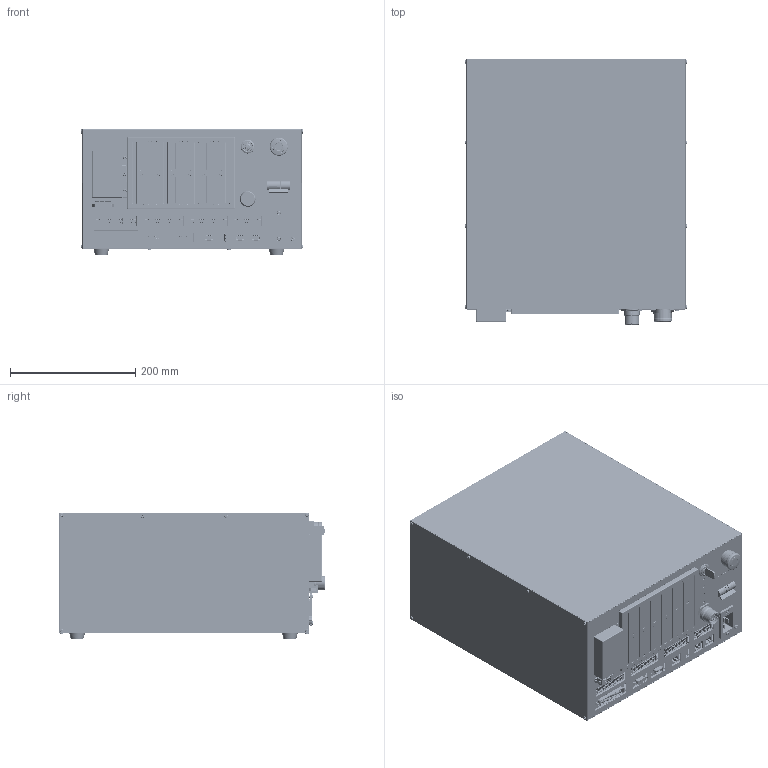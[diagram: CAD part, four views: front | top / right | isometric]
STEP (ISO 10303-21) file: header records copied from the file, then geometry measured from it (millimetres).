
FILE_DESCRIPTION (( 'STEP AP214' ), '1' );
FILE_NAME ('E系列控制柜3D（负载小于12kg）.STEP', '2020-12-07T02:32:42', ( '' ), ( '' ), 'SwSTEP 2.0', 'SolidWorks 2016', '' );
FILE_SCHEMA (( 'AUTOMOTIVE_DESIGN' ));
Length unit declared in the file: millimetre
Products named in the file (107): ABB_USR22_ASM102; C-0178803-08-E-3D61; 4040200003_ASM107; 15EDGRHCM-THR-3_5-28P-13-00A_H_77; 4040200002; _ABB_2TLA010070R0000_3_643; OUTSIDE-XA-LOCK-NUT_STEP_ASM105; RJ45_90855050013000193; E系列控制柜3D（负载小于12kg）; MC__BREAK_22_PIN_ASM108; _D0001_ASM115; _1000138; _4_1_000156; __D000294; _1_2_000248; _3000168; _1_3_000247; XA1E-BV3U02R_ASM116; LB6K-ST_STEP_ASM106; 20017; 0005_ASM; __1000153; LM150-10B_0001_ASM111; PS20S71F6_ASM109; Z-SHAPE23; 2912_PACK-KXA4-6; _3000269; 0006_ASM; _THUNDER__G100051; XA1E-BV3U02R_STEP_ASM113; 30030; OUTSIDE-LB-FL-NUT-SET________ST80; 00121; LB6K-ST_ASM114; OUTSIDE-LB-FL-S_K-BODY-M_______79; _X2_56FE5757_X0_ 21; __3_2_000132; DB9_BODY97; FN9222-20-06_ASM98; _ABB_2TLA010070R0000_5_1383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
Assembly tree (141 placements, depth 5):
  E系列控制柜3D（负载小于12kg）
    20017
    USBA12
    0045
    0012
    00121
    001819
    20013
    30030
    20045
    30026
    2912_PACK-KXA3-620  x21
    2912_PACK-KXA4-6
    00_ASM110
      C-178289-8-P-3D__000160
      C-0178803-08-E-3D61
    ABB_USR22_ASM102
      _ABB_2TLA010070R0000_2_470
      _ABB_2TLA010070R0000_4_83637  x4
      _ABB_2TLA010070R0000_1_240
      _ABB_2TLA010070R0000_5_1383
      _ABB_2TLA010070R0000_3_643
    _THUNDER__G1000425  x4
    _THUNDER__G100051
    0003_ASM
      TSB-500027
      12_000128
      _000129
    _D0001_ASM115  x3
      PCB__D000162
      PS20S71F6_ASM109
        __3_2_000132
        _7-495525000165
        __2000016667
      4040200001_ASM
        4040200002
        4040200003_ASM107
          _2000174
          _1000138
      TO-3PF_IGBT__ASM104
        _1_3_000141
        _7-479487000184
        _1_2_000186
        _1_1_000144
      17__D0001_ASM101
        _1_4_000192
        _1_3_000247
        _1_2_000248
        _1_1_000249
      TSB-500027
      __D00017
    LM150-10B_0001_ASM111
      __1000153
      10054
      M3_1_1_00055
      FN9222-20-06_ASM98
        _4_1_000156
        NONE57
          _X2_56FE5757_X0_ 27
        _4_2_000158
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Bounding box: 354 x 424.17 x 202.91 mm (x, y, z)
Volume: 2492184.3 mm3; surface area: 2473706.8 mm2
Topology: 316 solids, 487 shells, 28279 faces, 77144 edges, 50600 vertices
Faces by surface type: plane 19071, cylinder 7089, bspline 944, torus 595, cone 372, sphere 208
Entity records: 781857 total; most frequent: CARTESIAN_POINT 231066, ORIENTED_EDGE 121221, DIRECTION 99414, EDGE_CURVE 60740, VERTEX_POINT 39767, VECTOR 39420, LINE 39420, AXIS2_PLACEMENT_3D 29997
